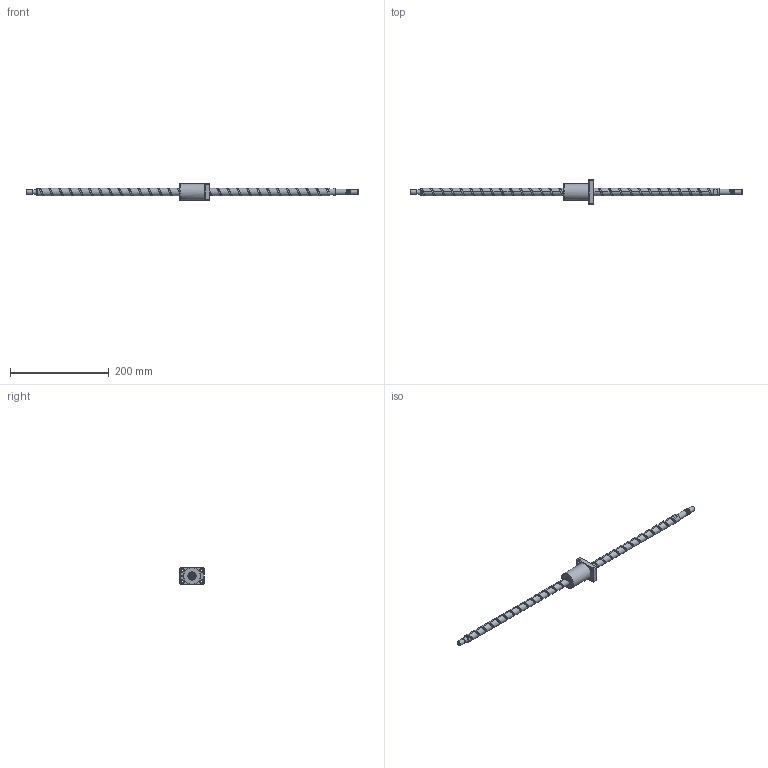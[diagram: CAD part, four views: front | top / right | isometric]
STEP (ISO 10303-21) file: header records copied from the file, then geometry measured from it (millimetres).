
FILE_DESCRIPTION (( 'STEP AP203' ), '1' );
FILE_NAME ('XSVR01520A1DGC5-671-P1.step', '2024-06-03T05:37:21', ( '' ), ( '' ), 'SwSTEP 2.0', 'SolidWorks 2022', '' );
FILE_SCHEMA (( 'CONFIG_CONTROL_DESIGN' ));
Length unit declared in the file: millimetre
Products named in the file (1): XSVR01520A1DGC5-671-P1
Bounding box: 671 x 50 x 34 mm (x, y, z)
Volume: 154420.7 mm3; surface area: 46799.7 mm2
Topology: 2 solids, 2 shells, 160 faces, 434 edges, 284 vertices
Faces by surface type: cylinder 83, plane 43, cone 15, bspline 10, torus 9
Full cylindrical faces by diameter (mm): 4 x1, 4.2 x15, 5 x6, 5.5 x4, 9.5 x4, 9.6 x1, 10 x3, 12 x9, 15 x30, 17 x1, 34 x1
Entity records: 19050 total; most frequent: CARTESIAN_POINT 16922, ORIENTED_EDGE 410, DIRECTION 391, EDGE_CURVE 205, AXIS2_PLACEMENT_3D 168, EDGE_LOOP 153, VERTEX_POINT 150, FACE_OUTER_BOUND 120
